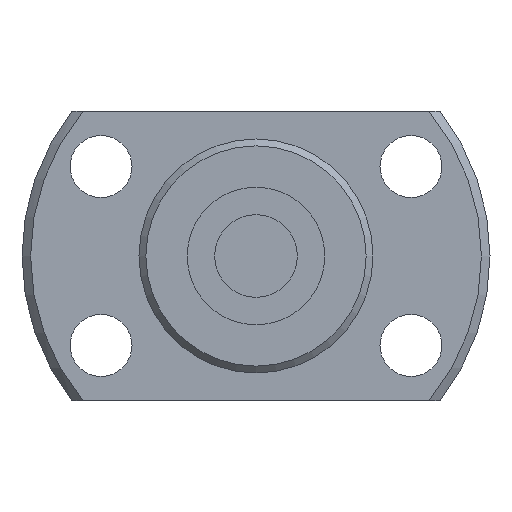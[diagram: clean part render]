
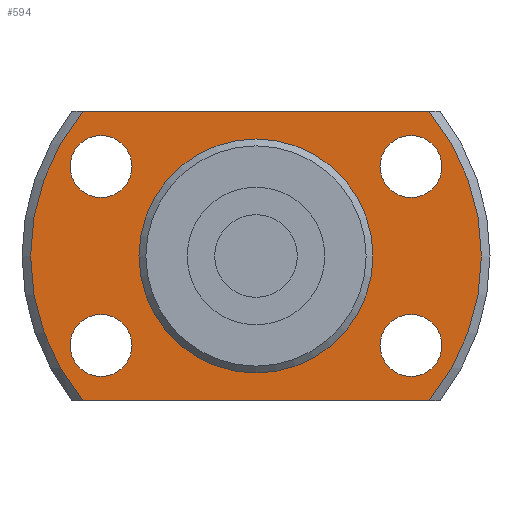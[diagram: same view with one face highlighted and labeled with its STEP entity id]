
A CAD part, left-side view. The second image highlights one B-rep face of the part: STEP entity #594.
In plain terms, the highlighted planar face has unit normal (-1, 0, 0) as drawn and (1, 0, 0) by its records, which use the part's own axes.
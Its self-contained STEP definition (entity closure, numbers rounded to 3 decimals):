
#80=CIRCLE('',#673,16.375);
#95=CIRCLE('',#697,8.3);
#96=CIRCLE('',#699,16.375);
#97=CIRCLE('',#700,2.25);
#98=CIRCLE('',#701,2.25);
#99=CIRCLE('',#702,2.25);
#100=CIRCLE('',#703,2.25);
#193=ORIENTED_EDGE('',*,*,#292,.T.);
#194=ORIENTED_EDGE('',*,*,#270,.T.);
#195=ORIENTED_EDGE('',*,*,#293,.T.);
#196=ORIENTED_EDGE('',*,*,#294,.T.);
#197=ORIENTED_EDGE('',*,*,#295,.F.);
#198=ORIENTED_EDGE('',*,*,#296,.F.);
#199=ORIENTED_EDGE('',*,*,#297,.F.);
#200=ORIENTED_EDGE('',*,*,#298,.F.);
#201=ORIENTED_EDGE('',*,*,#291,.F.);
#270=EDGE_CURVE('',#330,#332,#80,.T.);
#291=EDGE_CURVE('',#351,#351,#95,.T.);
#292=EDGE_CURVE('',#352,#330,#374,.T.);
#293=EDGE_CURVE('',#332,#353,#375,.T.);
#294=EDGE_CURVE('',#353,#352,#96,.T.);
#295=EDGE_CURVE('',#354,#354,#97,.T.);
#296=EDGE_CURVE('',#355,#355,#98,.T.);
#297=EDGE_CURVE('',#356,#356,#99,.T.);
#298=EDGE_CURVE('',#357,#357,#100,.T.);
#330=VERTEX_POINT('',#986);
#332=VERTEX_POINT('',#993);
#351=VERTEX_POINT('',#1049);
#352=VERTEX_POINT('',#1052);
#353=VERTEX_POINT('',#1054);
#354=VERTEX_POINT('',#1057);
#355=VERTEX_POINT('',#1059);
#356=VERTEX_POINT('',#1061);
#357=VERTEX_POINT('',#1063);
#374=LINE('',#1051,#392);
#375=LINE('',#1053,#393);
#392=VECTOR('',#869,1000.);
#393=VECTOR('',#870,1000.);
#451=EDGE_LOOP('',(#193,#194,#195,#196));
#452=EDGE_LOOP('',(#197));
#453=EDGE_LOOP('',(#198));
#454=EDGE_LOOP('',(#199));
#455=EDGE_LOOP('',(#200));
#456=EDGE_LOOP('',(#201));
#525=FACE_BOUND('',#451,.T.);
#526=FACE_BOUND('',#452,.T.);
#527=FACE_BOUND('',#453,.T.);
#528=FACE_BOUND('',#454,.T.);
#529=FACE_BOUND('',#455,.T.);
#530=FACE_BOUND('',#456,.T.);
#560=PLANE('',#698);
#594=ADVANCED_FACE('',(#525,#526,#527,#528,#529,#530),#560,.T.);
#673=AXIS2_PLACEMENT_3D('',#994,#813,#814);
#697=AXIS2_PLACEMENT_3D('',#1048,#865,#866);
#698=AXIS2_PLACEMENT_3D('',#1050,#867,#868);
#699=AXIS2_PLACEMENT_3D('',#1055,#871,#872);
#700=AXIS2_PLACEMENT_3D('',#1056,#873,#874);
#701=AXIS2_PLACEMENT_3D('',#1058,#875,#876);
#702=AXIS2_PLACEMENT_3D('',#1060,#877,#878);
#703=AXIS2_PLACEMENT_3D('',#1062,#879,#880);
#813=DIRECTION('',(1.,0.,0.));
#814=DIRECTION('',(0.,0.,-1.));
#865=DIRECTION('',(1.,0.,0.));
#866=DIRECTION('',(0.,0.,-1.));
#867=DIRECTION('',(1.,0.,0.));
#868=DIRECTION('',(0.,0.,-1.));
#869=DIRECTION('',(0.,-1.,0.));
#870=DIRECTION('',(0.,1.,0.));
#871=DIRECTION('',(1.,0.,0.));
#872=DIRECTION('',(0.,0.,-1.));
#873=DIRECTION('',(1.,0.,0.));
#874=DIRECTION('',(0.,0.,-1.));
#875=DIRECTION('',(1.,0.,0.));
#876=DIRECTION('',(0.,0.,-1.));
#877=DIRECTION('',(1.,0.,0.));
#878=DIRECTION('',(0.,0.,-1.));
#879=DIRECTION('',(1.,0.,0.));
#880=DIRECTION('',(0.,0.,-1.));
#986=CARTESIAN_POINT('',(5.,-12.565,10.5));
#993=CARTESIAN_POINT('',(5.,-12.565,-10.5));
#994=CARTESIAN_POINT('',(5.,0.,0.));
#1048=CARTESIAN_POINT('',(5.,0.,0.));
#1049=CARTESIAN_POINT('',(5.,0.,-8.3));
#1050=CARTESIAN_POINT('',(5.,8.3,0.));
#1051=CARTESIAN_POINT('',(5.,17.,10.5));
#1052=CARTESIAN_POINT('',(5.,12.565,10.5));
#1053=CARTESIAN_POINT('',(5.,-17.,-10.5));
#1054=CARTESIAN_POINT('',(5.,12.565,-10.5));
#1055=CARTESIAN_POINT('',(5.,0.,0.));
#1056=CARTESIAN_POINT('',(5.,11.258,6.5));
#1057=CARTESIAN_POINT('',(5.,11.258,4.25));
#1058=CARTESIAN_POINT('',(5.,-11.258,6.5));
#1059=CARTESIAN_POINT('',(5.,-11.258,4.25));
#1060=CARTESIAN_POINT('',(5.,-11.258,-6.5));
#1061=CARTESIAN_POINT('',(5.,-11.258,-8.75));
#1062=CARTESIAN_POINT('',(5.,11.258,-6.5));
#1063=CARTESIAN_POINT('',(5.,11.258,-8.75));
